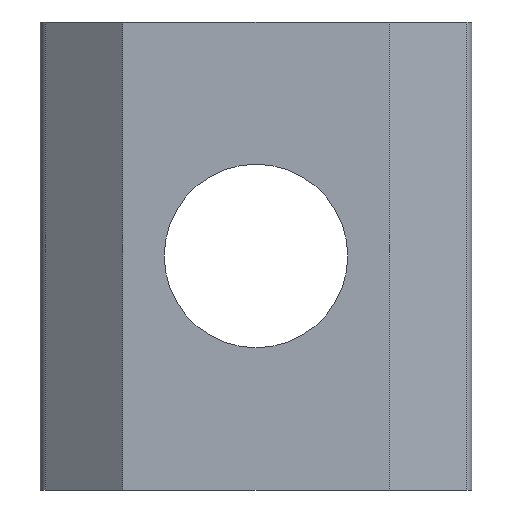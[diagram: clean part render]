
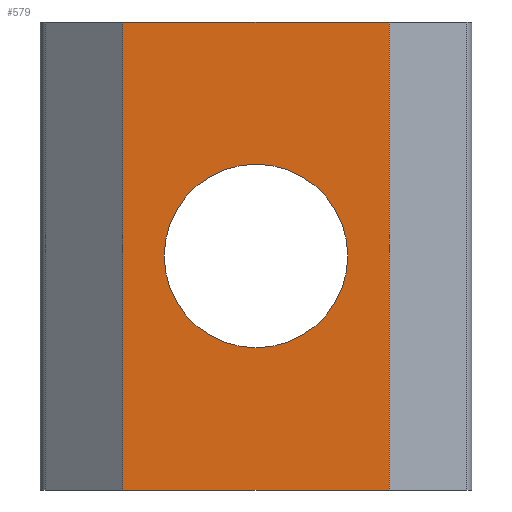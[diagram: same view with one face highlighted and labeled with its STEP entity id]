
A CAD part, front view. The second image highlights one B-rep face of the part: STEP entity #579.
In plain terms, the highlighted planar face has unit normal (0, -1, 0).
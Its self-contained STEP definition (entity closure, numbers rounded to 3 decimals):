
#16 = EDGE_CURVE ( 'NONE', #270, #156, #369, .T. ) ;
#35 = AXIS2_PLACEMENT_3D ( 'NONE', #402, #667, #284 ) ;
#38 = FACE_BOUND ( 'NONE', #146, .T. ) ;
#40 = VECTOR ( 'NONE', #595, 1000. ) ;
#45 = VERTEX_POINT ( 'NONE', #77 ) ;
#66 = EDGE_CURVE ( 'NONE', #227, #336, #354, .T. ) ;
#77 = CARTESIAN_POINT ( 'NONE',  ( 2.9, -2.25, 5.1 ) ) ;
#99 = CARTESIAN_POINT ( 'NONE',  ( 2.9, -2.25, 5.1 ) ) ;
#113 = ORIENTED_EDGE ( 'NONE', *, *, #318, .F. ) ;
#114 = CARTESIAN_POINT ( 'NONE',  ( -2., -2.25, 0. ) ) ;
#119 = DIRECTION ( 'NONE',  ( -1., 0., 0. ) ) ;
#133 = CARTESIAN_POINT ( 'NONE',  ( -2.9, -2.25, 5.1 ) ) ;
#144 = CARTESIAN_POINT ( 'NONE',  ( 0., -2.25, 0. ) ) ;
#146 = EDGE_LOOP ( 'NONE', ( #444, #150 ) ) ;
#148 = CARTESIAN_POINT ( 'NONE',  ( -2.9, -2.25, 5.1 ) ) ;
#150 = ORIENTED_EDGE ( 'NONE', *, *, #429, .T. ) ;
#156 = VERTEX_POINT ( 'NONE', #271 ) ;
#158 = DIRECTION ( 'NONE',  ( 0., 0., -1. ) ) ;
#167 = VECTOR ( 'NONE', #506, 1000. ) ;
#171 = VECTOR ( 'NONE', #158, 1000. ) ;
#196 = DIRECTION ( 'NONE',  ( -1., 0., 0. ) ) ;
#227 = VERTEX_POINT ( 'NONE', #114 ) ;
#265 = EDGE_LOOP ( 'NONE', ( #565, #113, #648, #352 ) ) ;
#270 = VERTEX_POINT ( 'NONE', #148 ) ;
#271 = CARTESIAN_POINT ( 'NONE',  ( -2.9, -2.25, -5.1 ) ) ;
#284 = DIRECTION ( 'NONE',  ( -1., 0., 0. ) ) ;
#286 = CARTESIAN_POINT ( 'NONE',  ( 2.9, -2.25, -5.1 ) ) ;
#305 = DIRECTION ( 'NONE',  ( 1., 0., 0. ) ) ;
#309 = EDGE_CURVE ( 'NONE', #270, #45, #553, .T. ) ;
#314 = AXIS2_PLACEMENT_3D ( 'NONE', #509, #455, #119 ) ;
#318 = EDGE_CURVE ( 'NONE', #45, #626, #606, .T. ) ;
#319 = FACE_OUTER_BOUND ( 'NONE', #265, .T. ) ;
#334 = AXIS2_PLACEMENT_3D ( 'NONE', #144, #573, #196 ) ;
#336 = VERTEX_POINT ( 'NONE', #387 ) ;
#352 = ORIENTED_EDGE ( 'NONE', *, *, #16, .T. ) ;
#354 = CIRCLE ( 'NONE', #314, 2. ) ;
#369 = LINE ( 'NONE', #133, #167 ) ;
#384 = VECTOR ( 'NONE', #305, 1000. ) ;
#387 = CARTESIAN_POINT ( 'NONE',  ( 2., -2.25, 0. ) ) ;
#399 = LINE ( 'NONE', #578, #384 ) ;
#402 = CARTESIAN_POINT ( 'NONE',  ( 2.9, -2.25, 5.1 ) ) ;
#424 = EDGE_CURVE ( 'NONE', #156, #626, #399, .T. ) ;
#429 = EDGE_CURVE ( 'NONE', #336, #227, #703, .T. ) ;
#444 = ORIENTED_EDGE ( 'NONE', *, *, #66, .T. ) ;
#455 = DIRECTION ( 'NONE',  ( 0., 1., 0. ) ) ;
#506 = DIRECTION ( 'NONE',  ( 0., 0., -1. ) ) ;
#509 = CARTESIAN_POINT ( 'NONE',  ( 0., -2.25, 0. ) ) ;
#513 = PLANE ( 'NONE',  #35 ) ;
#553 = LINE ( 'NONE', #99, #40 ) ;
#565 = ORIENTED_EDGE ( 'NONE', *, *, #424, .T. ) ;
#573 = DIRECTION ( 'NONE',  ( 0., 1., 0. ) ) ;
#578 = CARTESIAN_POINT ( 'NONE',  ( 2.9, -2.25, -5.1 ) ) ;
#579 = ADVANCED_FACE ( 'NONE', ( #38, #319 ), #513, .F. ) ;
#595 = DIRECTION ( 'NONE',  ( 1., 0., 0. ) ) ;
#606 = LINE ( 'NONE', #655, #171 ) ;
#626 = VERTEX_POINT ( 'NONE', #286 ) ;
#648 = ORIENTED_EDGE ( 'NONE', *, *, #309, .F. ) ;
#655 = CARTESIAN_POINT ( 'NONE',  ( 2.9, -2.25, 5.1 ) ) ;
#667 = DIRECTION ( 'NONE',  ( 0., 1., 0. ) ) ;
#703 = CIRCLE ( 'NONE', #334, 2. ) ;
